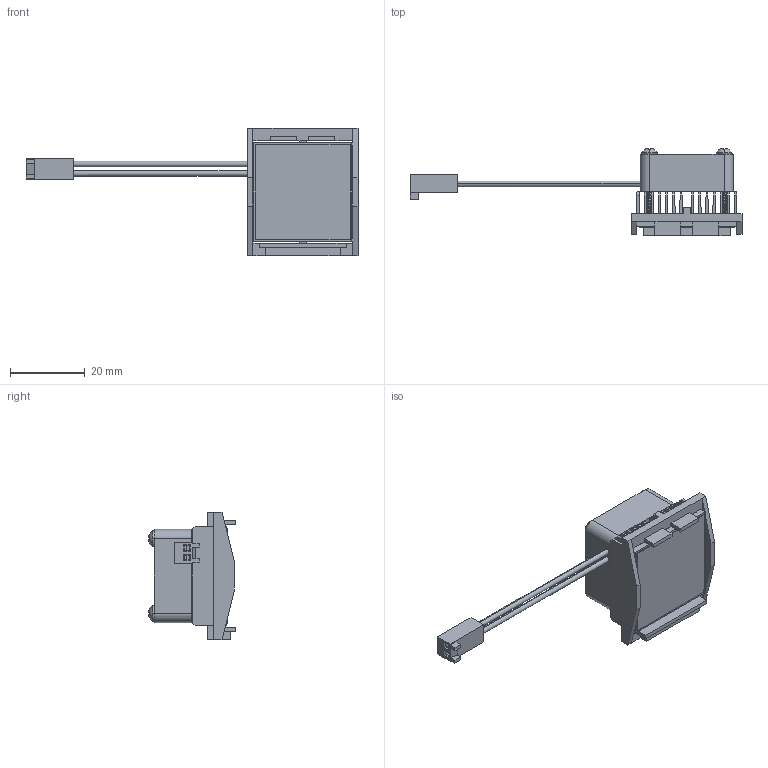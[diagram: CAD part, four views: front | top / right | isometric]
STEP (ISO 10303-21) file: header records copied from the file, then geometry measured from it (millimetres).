
FILE_DESCRIPTION (( 'STEP AP214' ), '1' );
FILE_NAME ('FI27-1.7+Y.STEP', '2023-03-22T00:04:33', ( '' ), ( '' ), 'SwSTEP 2.0', 'SolidWorks 2020', '' );
FILE_SCHEMA (( 'AUTOMOTIVE_DESIGN' ));
Length unit declared in the file: millimetre
Products named in the file (1): FI27-1.7+Y
Bounding box: 89 x 23.3 x 34.1 mm (x, y, z)
Volume: 7994.8 mm3; surface area: 15823.7 mm2
Topology: 8 solids, 8 shells, 855 faces, 2490 edges, 1656 vertices
Faces by surface type: cylinder 370, plane 307, bspline 122, cone 40, sphere 8, torus 8
Entity records: 63335 total; most frequent: CARTESIAN_POINT 34104, ORIENTED_EDGE 4980, DIRECTION 3289, EDGE_CURVE 2490, VERTEX_POINT 1656, VECTOR 1209, LINE 1209, AXIS2_PLACEMENT_3D 1040
